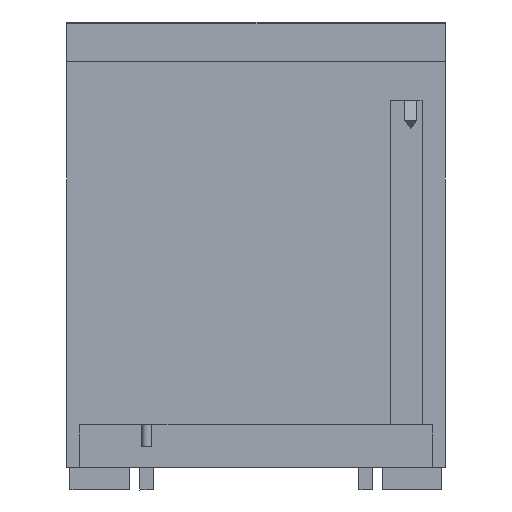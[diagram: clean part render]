
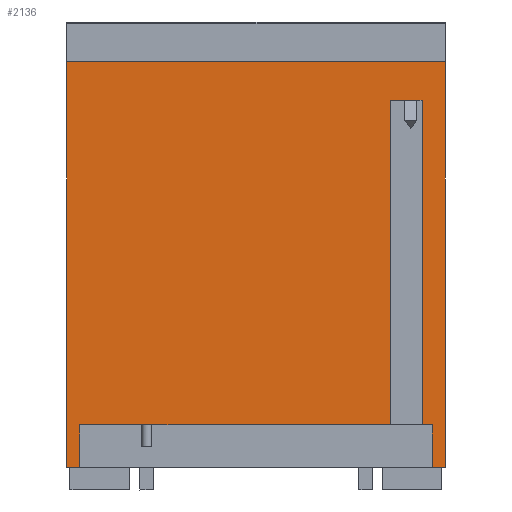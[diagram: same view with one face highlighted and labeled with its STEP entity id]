
A CAD part, left-side view. The second image highlights one B-rep face of the part: STEP entity #2136.
In plain terms, the highlighted free-form (B-spline) face has degree [1, 3] with [2, 4] control points.
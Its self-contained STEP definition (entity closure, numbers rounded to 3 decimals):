
#2136=ADVANCED_FACE('',(#3071),#13215,.T.);
#3071=FACE_OUTER_BOUND('',#4030,.T.);
#4030=EDGE_LOOP('',(#8458,#8459,#8460,#8461,#8462,#8463,#8464,#8465,#8466,
#8467,#8468,#8469));
#8458=ORIENTED_EDGE('',*,*,#10825,.T.);
#8459=ORIENTED_EDGE('',*,*,#10826,.F.);
#8460=ORIENTED_EDGE('',*,*,#10827,.F.);
#8461=ORIENTED_EDGE('',*,*,#10828,.F.);
#8462=ORIENTED_EDGE('',*,*,#10829,.T.);
#8463=ORIENTED_EDGE('',*,*,#10804,.T.);
#8464=ORIENTED_EDGE('',*,*,#10808,.F.);
#8465=ORIENTED_EDGE('',*,*,#10806,.F.);
#8466=ORIENTED_EDGE('',*,*,#10830,.T.);
#8467=ORIENTED_EDGE('',*,*,#10831,.T.);
#8468=ORIENTED_EDGE('',*,*,#10832,.F.);
#8469=ORIENTED_EDGE('',*,*,#10833,.T.);
#10804=EDGE_CURVE('',#12346,#12347,#15185,.T.);
#10806=EDGE_CURVE('',#12348,#12349,#15187,.T.);
#10808=EDGE_CURVE('',#12349,#12347,#15189,.T.);
#10825=EDGE_CURVE('',#12358,#12359,#15206,.T.);
#10826=EDGE_CURVE('',#12360,#12359,#15207,.T.);
#10827=EDGE_CURVE('',#12361,#12360,#15208,.T.);
#10828=EDGE_CURVE('',#12362,#12361,#15209,.T.);
#10829=EDGE_CURVE('',#12362,#12346,#15210,.T.);
#10830=EDGE_CURVE('',#12348,#12363,#15211,.T.);
#10831=EDGE_CURVE('',#12363,#12364,#15212,.T.);
#10832=EDGE_CURVE('',#12365,#12364,#15213,.T.);
#10833=EDGE_CURVE('',#12365,#12358,#15214,.T.);
#12346=VERTEX_POINT('',#44996);
#12347=VERTEX_POINT('',#44997);
#12348=VERTEX_POINT('',#44998);
#12349=VERTEX_POINT('',#44999);
#12358=VERTEX_POINT('',#45008);
#12359=VERTEX_POINT('',#45009);
#12360=VERTEX_POINT('',#45010);
#12361=VERTEX_POINT('',#45011);
#12362=VERTEX_POINT('',#45012);
#12363=VERTEX_POINT('',#45013);
#12364=VERTEX_POINT('',#45014);
#12365=VERTEX_POINT('',#45015);
#13215=B_SPLINE_SURFACE_WITH_KNOTS('',1,3,((#44932,#44933,#44934,#44935),
(#44936,#44937,#44938,#44939)),.UNSPECIFIED.,.F.,.F.,.F.,(2,2),(4,4),(0.,
1.),(0.,1.),.UNSPECIFIED.);
#15185=B_SPLINE_CURVE_WITH_KNOTS('',3,(#44728,#44729,#44730,#44731),.UNSPECIFIED.,
.F.,.F.,(4,4),(0.,1.),.UNSPECIFIED.);
#15187=B_SPLINE_CURVE_WITH_KNOTS('',3,(#44736,#44737,#44738,#44739),.UNSPECIFIED.,
.F.,.F.,(4,4),(0.,1.),.UNSPECIFIED.);
#15189=B_SPLINE_CURVE_WITH_KNOTS('',1,(#44744,#44745),.UNSPECIFIED.,.F.,
.F.,(2,2),(0.,1.),.UNSPECIFIED.);
#15206=B_SPLINE_CURVE_WITH_KNOTS('',1,(#44786,#44787),.UNSPECIFIED.,.F.,
.F.,(2,2),(0.855,0.939),.UNSPECIFIED.);
#15207=B_SPLINE_CURVE_WITH_KNOTS('',3,(#44788,#44789,#44790,#44791),.UNSPECIFIED.,
.F.,.F.,(4,4),(0.102,0.909),.UNSPECIFIED.);
#15208=B_SPLINE_CURVE_WITH_KNOTS('',1,(#44792,#44793),.UNSPECIFIED.,.F.,
.F.,(2,2),(0.,0.028),.UNSPECIFIED.);
#15209=B_SPLINE_CURVE_WITH_KNOTS('',3,(#44794,#44795,#44796,#44797),.UNSPECIFIED.,
.F.,.F.,(4,4),(0.,0.102),.UNSPECIFIED.);
#15210=B_SPLINE_CURVE_WITH_KNOTS('',1,(#44798,#44799),.UNSPECIFIED.,.F.,
.F.,(2,2),(0.965,1.),.UNSPECIFIED.);
#15211=B_SPLINE_CURVE_WITH_KNOTS('',1,(#44800,#44801),.UNSPECIFIED.,.F.,
.F.,(2,2),(0.,0.035),.UNSPECIFIED.);
#15212=B_SPLINE_CURVE_WITH_KNOTS('',3,(#44802,#44803,#44804,#44805),.UNSPECIFIED.,
.F.,.F.,(4,4),(0.,0.102),.UNSPECIFIED.);
#15213=B_SPLINE_CURVE_WITH_KNOTS('',1,(#44806,#44807),.UNSPECIFIED.,.F.,
.F.,(2,2),(0.118,1.),.UNSPECIFIED.);
#15214=B_SPLINE_CURVE_WITH_KNOTS('',3,(#44808,#44809,#44810,#44811),.UNSPECIFIED.,
.F.,.F.,(4,4),(0.102,0.909),.UNSPECIFIED.);
#44728=CARTESIAN_POINT('',(-692.526,-381.1,45.006));
#44729=CARTESIAN_POINT('',(-692.526,-381.1,330.));
#44730=CARTESIAN_POINT('',(-692.526,-381.1,576.614));
#44731=CARTESIAN_POINT('',(-692.526,-381.1,861.608));
#44736=CARTESIAN_POINT('',(-692.526,380.9,45.006));
#44737=CARTESIAN_POINT('',(-692.526,380.9,330.));
#44738=CARTESIAN_POINT('',(-692.526,380.9,576.614));
#44739=CARTESIAN_POINT('',(-692.526,380.9,861.608));
#44744=CARTESIAN_POINT('',(-692.526,380.9,861.608));
#44745=CARTESIAN_POINT('',(-692.526,-381.1,861.608));
#44786=CARTESIAN_POINT('',(-692.526,-270.766,784.443));
#44787=CARTESIAN_POINT('',(-692.526,-334.298,784.443));
#44788=CARTESIAN_POINT('',(-692.526,-334.298,130.773));
#44789=CARTESIAN_POINT('',(-692.526,-334.298,355.131));
#44790=CARTESIAN_POINT('',(-692.526,-334.298,559.57));
#44791=CARTESIAN_POINT('',(-692.526,-334.298,784.443));
#44792=CARTESIAN_POINT('',(-692.526,-354.454,130.773));
#44793=CARTESIAN_POINT('',(-692.526,-334.298,130.773));
#44794=CARTESIAN_POINT('',(-692.526,-354.454,45.006));
#44795=CARTESIAN_POINT('',(-692.526,-354.454,73.964));
#44796=CARTESIAN_POINT('',(-692.526,-354.454,102.527));
#44797=CARTESIAN_POINT('',(-692.526,-354.454,130.773));
#44798=CARTESIAN_POINT('',(-692.526,-354.454,45.006));
#44799=CARTESIAN_POINT('',(-692.526,-381.1,45.006));
#44800=CARTESIAN_POINT('',(-692.526,380.9,45.006));
#44801=CARTESIAN_POINT('',(-692.526,354.546,45.006));
#44802=CARTESIAN_POINT('',(-692.526,354.546,45.006));
#44803=CARTESIAN_POINT('',(-692.526,354.546,73.964));
#44804=CARTESIAN_POINT('',(-692.526,354.546,102.527));
#44805=CARTESIAN_POINT('',(-692.526,354.546,130.773));
#44806=CARTESIAN_POINT('',(-692.526,-270.766,130.773));
#44807=CARTESIAN_POINT('',(-692.526,354.546,130.773));
#44808=CARTESIAN_POINT('',(-692.526,-270.766,130.773));
#44809=CARTESIAN_POINT('',(-692.526,-270.766,355.131));
#44810=CARTESIAN_POINT('',(-692.526,-270.766,559.57));
#44811=CARTESIAN_POINT('',(-692.526,-270.766,784.443));
#44932=CARTESIAN_POINT('',(-692.526,380.9,45.006));
#44933=CARTESIAN_POINT('',(-692.526,380.9,330.));
#44934=CARTESIAN_POINT('',(-692.526,380.9,576.614));
#44935=CARTESIAN_POINT('',(-692.526,380.9,861.608));
#44936=CARTESIAN_POINT('',(-692.526,-381.1,45.006));
#44937=CARTESIAN_POINT('',(-692.526,-381.1,330.));
#44938=CARTESIAN_POINT('',(-692.526,-381.1,576.614));
#44939=CARTESIAN_POINT('',(-692.526,-381.1,861.608));
#44996=CARTESIAN_POINT('',(-692.526,-381.1,45.006));
#44997=CARTESIAN_POINT('',(-692.526,-381.1,861.608));
#44998=CARTESIAN_POINT('',(-692.526,380.9,45.006));
#44999=CARTESIAN_POINT('',(-692.526,380.9,861.608));
#45008=CARTESIAN_POINT('',(-692.526,-270.766,784.443));
#45009=CARTESIAN_POINT('',(-692.526,-334.298,784.443));
#45010=CARTESIAN_POINT('',(-692.526,-334.298,130.773));
#45011=CARTESIAN_POINT('',(-692.526,-354.454,130.773));
#45012=CARTESIAN_POINT('',(-692.526,-354.454,45.006));
#45013=CARTESIAN_POINT('',(-692.526,354.546,45.006));
#45014=CARTESIAN_POINT('',(-692.526,354.546,130.773));
#45015=CARTESIAN_POINT('',(-692.526,-270.766,130.773));
